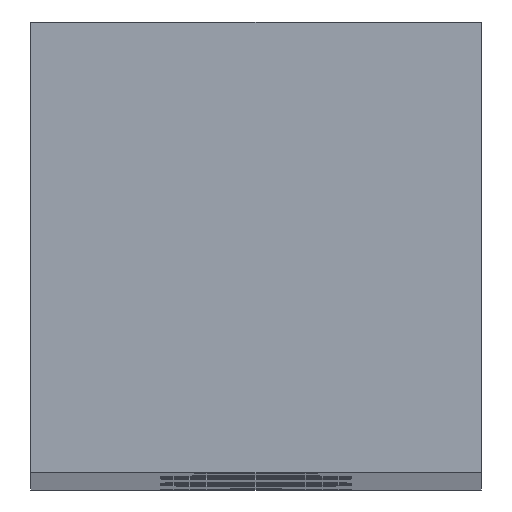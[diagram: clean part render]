
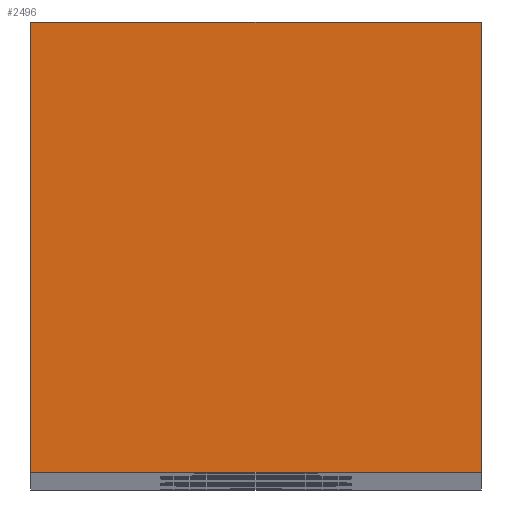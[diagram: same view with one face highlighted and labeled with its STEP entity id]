
A CAD part, top view. The second image highlights one B-rep face of the part: STEP entity #2496.
In plain terms, the highlighted planar face has unit normal (0, 0, 1).
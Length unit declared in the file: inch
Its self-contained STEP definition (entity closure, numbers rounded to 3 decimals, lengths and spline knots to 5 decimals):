
#1 = FACE_OUTER_BOUND ( 'NONE', #2032, .T. ) ;
#10 = CARTESIAN_POINT ( 'NONE',  ( 0.125, -0.125, 0. ) ) ;
#183 = CARTESIAN_POINT ( 'NONE',  ( 0.125, 0.125, 0. ) ) ;
#202 = DIRECTION ( 'NONE',  ( 1., 0., 0. ) ) ;
#402 = CARTESIAN_POINT ( 'NONE',  ( -0.125, 0.125, 0. ) ) ;
#438 = VERTEX_POINT ( 'NONE', #2501 ) ;
#469 = ORIENTED_EDGE ( 'NONE', *, *, #1149, .T. ) ;
#530 = ORIENTED_EDGE ( 'NONE', *, *, #1335, .T. ) ;
#546 = LINE ( 'NONE', #2433, #1350 ) ;
#547 = LINE ( 'NONE', #1897, #1684 ) ;
#563 = VERTEX_POINT ( 'NONE', #402 ) ;
#622 = DIRECTION ( 'NONE',  ( 0., 1., 0. ) ) ;
#723 = AXIS2_PLACEMENT_3D ( 'NONE', #986, #1619, #1110 ) ;
#861 = ORIENTED_EDGE ( 'NONE', *, *, #1930, .T. ) ;
#868 = VECTOR ( 'NONE', #1792, 39.37008 ) ;
#908 = LINE ( 'NONE', #2425, #868 ) ;
#986 = CARTESIAN_POINT ( 'NONE',  ( -0.125, 0.125, 0. ) ) ;
#1110 = DIRECTION ( 'NONE',  ( 1., 0., 0. ) ) ;
#1149 = EDGE_CURVE ( 'NONE', #1414, #563, #547, .T. ) ;
#1208 = LINE ( 'NONE', #10, #1279 ) ;
#1224 = PLANE ( 'NONE',  #723 ) ;
#1279 = VECTOR ( 'NONE', #202, 39.37008 ) ;
#1335 = EDGE_CURVE ( 'NONE', #563, #438, #908, .T. ) ;
#1350 = VECTOR ( 'NONE', #622, 39.37008 ) ;
#1390 = ORIENTED_EDGE ( 'NONE', *, *, #1402, .T. ) ;
#1402 = EDGE_CURVE ( 'NONE', #438, #1599, #1208, .T. ) ;
#1414 = VERTEX_POINT ( 'NONE', #183 ) ;
#1513 = CARTESIAN_POINT ( 'NONE',  ( 0.125, -0.125, 0. ) ) ;
#1599 = VERTEX_POINT ( 'NONE', #1513 ) ;
#1619 = DIRECTION ( 'NONE',  ( 0., 0., 1. ) ) ;
#1684 = VECTOR ( 'NONE', #1803, 39.37008 ) ;
#1792 = DIRECTION ( 'NONE',  ( 0., -1., 0. ) ) ;
#1803 = DIRECTION ( 'NONE',  ( -1., 0., 0. ) ) ;
#1897 = CARTESIAN_POINT ( 'NONE',  ( 0.125, 0.125, 0. ) ) ;
#1930 = EDGE_CURVE ( 'NONE', #1599, #1414, #546, .T. ) ;
#2032 = EDGE_LOOP ( 'NONE', ( #530, #1390, #861, #469 ) ) ;
#2425 = CARTESIAN_POINT ( 'NONE',  ( -0.125, -0.125, 0. ) ) ;
#2433 = CARTESIAN_POINT ( 'NONE',  ( 0.125, -0.125, 0. ) ) ;
#2496 = ADVANCED_FACE ( 'NONE', ( #1 ), #1224, .T. ) ;
#2501 = CARTESIAN_POINT ( 'NONE',  ( -0.125, -0.125, 0. ) ) ;
